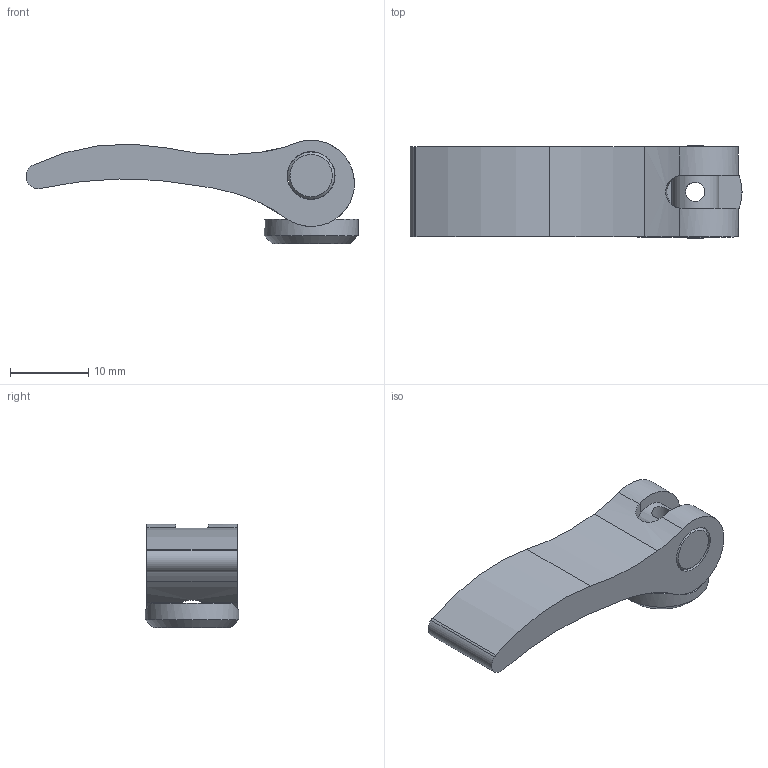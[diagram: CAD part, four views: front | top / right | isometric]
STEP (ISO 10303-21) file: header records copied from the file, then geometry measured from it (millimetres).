
FILE_DESCRIPTION(('STEP AP203'), '1');
FILE_NAME('À00360.11420300 _ Ýêñöåíòðèê 42 ìì', '', ('UNSPECIFIED'), ('UNSPECIFIED'), 'C3D Converter', 'C3D Toolkit', '');
FILE_SCHEMA(('CONFIG_CONTROL_DESIGN'));
Length unit declared in the file: millimetre
Products named in the file (4): А00360.42.03; А00360.42.02; А00360.42.01
Assembly tree (3 placements, depth 2):
  (unnamed)
    А00360.42.03
    А00360.42.02
    А00360.42.01
Bounding box: 42.36 x 11.94 x 13.2 mm (x, y, z)
Volume: 2688.9 mm3; surface area: 2282.3 mm2
Topology: 3 solids, 3 shells, 31 faces, 80 edges, 53 vertices
Faces by surface type: cylinder 19, plane 9, cone 3
Full cylindrical faces by diameter (mm): 2.459 x1, 4.5 x1, 6 x1, 6.1 x2, 11.94 x1
Entity records: 1862 total; most frequent: CARTESIAN_POINT 868, DIRECTION 164, ORIENTED_EDGE 142, AXIS2_PLACEMENT_3D 73, EDGE_CURVE 71, VERTEX_POINT 53, EDGE_LOOP 46, CIRCLE 38
